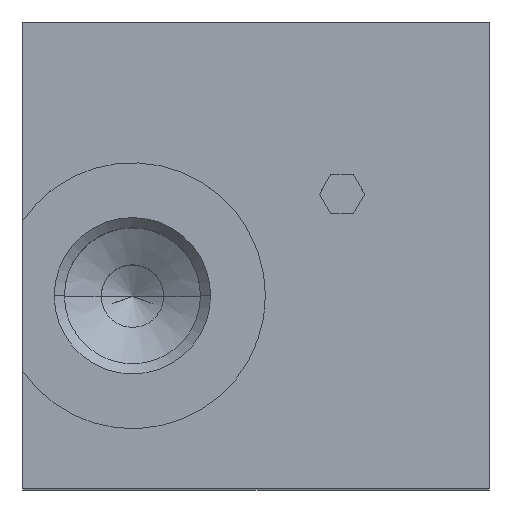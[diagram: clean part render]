
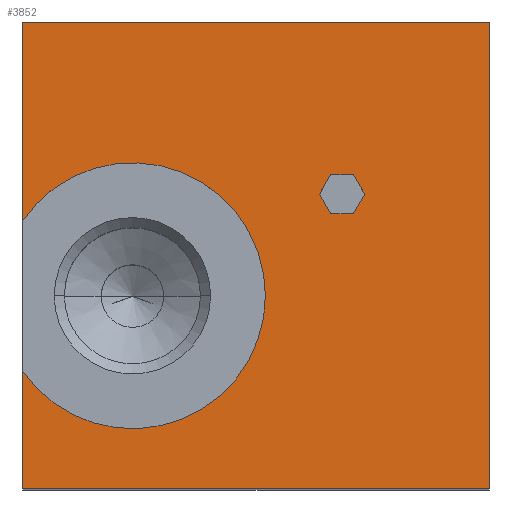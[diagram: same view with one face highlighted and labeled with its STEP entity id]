
A CAD part, top view. The second image highlights one B-rep face of the part: STEP entity #3852.
In plain terms, the highlighted planar face has unit normal (0, 0, 1).
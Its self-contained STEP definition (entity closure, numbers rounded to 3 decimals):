
#14=DIRECTION('',(-1.,0.,0.));
#15=VECTOR('',#14,29.8);
#16=CARTESIAN_POINT('',(14.9,14.9,34.));
#17=LINE('',#16,#15);
#274=DIRECTION('',(0.,-1.,0.));
#275=VECTOR('',#274,7.478);
#276=CARTESIAN_POINT('',(-14.9,-7.422,34.));
#277=LINE('',#276,#275);
#294=DIRECTION('',(0.,-1.,0.));
#295=VECTOR('',#294,12.678);
#296=CARTESIAN_POINT('',(-14.9,14.9,34.));
#297=LINE('',#296,#295);
#529=CARTESIAN_POINT('',(-7.9,-2.6,34.));
#530=DIRECTION('',(0.,0.,-1.));
#531=DIRECTION('',(-0.824,0.567,0.));
#532=AXIS2_PLACEMENT_3D('',#529,#530,#531);
#534=DIRECTION('',(0.,1.,0.));
#535=VECTOR('',#534,14.9);
#536=CARTESIAN_POINT('',(14.9,0.,34.));
#537=LINE('',#536,#535);
#538=DIRECTION('',(0.,1.,0.));
#539=VECTOR('',#538,14.9);
#540=CARTESIAN_POINT('',(14.9,-14.9,34.));
#541=LINE('',#540,#539);
#542=DIRECTION('',(-1.,0.,0.));
#543=VECTOR('',#542,1.443);
#544=CARTESIAN_POINT('',(6.222,5.15,34.));
#545=LINE('',#544,#543);
#546=DIRECTION('',(-0.5,-0.866,0.));
#547=VECTOR('',#546,1.443);
#548=CARTESIAN_POINT('',(4.778,5.15,34.));
#549=LINE('',#548,#547);
#550=DIRECTION('',(0.5,-0.866,0.));
#551=VECTOR('',#550,1.443);
#552=CARTESIAN_POINT('',(4.057,3.9,34.));
#553=LINE('',#552,#551);
#554=DIRECTION('',(1.,0.,0.));
#555=VECTOR('',#554,1.443);
#556=CARTESIAN_POINT('',(4.778,2.65,34.));
#557=LINE('',#556,#555);
#558=DIRECTION('',(0.5,0.866,0.));
#559=VECTOR('',#558,1.443);
#560=CARTESIAN_POINT('',(6.222,2.65,34.));
#561=LINE('',#560,#559);
#562=DIRECTION('',(-0.5,0.866,0.));
#563=VECTOR('',#562,1.443);
#564=CARTESIAN_POINT('',(6.943,3.9,34.));
#565=LINE('',#564,#563);
#574=DIRECTION('',(1.,0.,0.));
#575=VECTOR('',#574,29.8);
#576=CARTESIAN_POINT('',(-14.9,-14.9,34.));
#577=LINE('',#576,#575);
#3120=CARTESIAN_POINT('',(14.9,-14.9,34.));
#3121=CARTESIAN_POINT('',(14.9,0.,34.));
#3122=VERTEX_POINT('',#3120);
#3123=VERTEX_POINT('',#3121);
#3124=CARTESIAN_POINT('',(14.9,14.9,34.));
#3125=VERTEX_POINT('',#3124);
#3127=CARTESIAN_POINT('',(-14.9,14.9,34.));
#3129=VERTEX_POINT('',#3127);
#3131=CARTESIAN_POINT('',(-14.9,-14.9,34.));
#3133=VERTEX_POINT('',#3131);
#3190=CARTESIAN_POINT('',(-14.9,-7.422,34.));
#3191=VERTEX_POINT('',#3190);
#3192=CARTESIAN_POINT('',(-14.9,2.222,34.));
#3193=VERTEX_POINT('',#3192);
#3505=CARTESIAN_POINT('',(6.222,5.15,34.));
#3506=CARTESIAN_POINT('',(4.778,5.15,34.));
#3507=VERTEX_POINT('',#3505);
#3508=VERTEX_POINT('',#3506);
#3509=CARTESIAN_POINT('',(4.057,3.9,34.));
#3510=VERTEX_POINT('',#3509);
#3511=CARTESIAN_POINT('',(4.778,2.65,34.));
#3512=VERTEX_POINT('',#3511);
#3513=CARTESIAN_POINT('',(6.222,2.65,34.));
#3514=VERTEX_POINT('',#3513);
#3515=CARTESIAN_POINT('',(6.943,3.9,34.));
#3516=VERTEX_POINT('',#3515);
#3821=CARTESIAN_POINT('',(0.,0.,34.));
#3822=DIRECTION('',(0.,0.,1.));
#3823=DIRECTION('',(1.,0.,0.));
#3824=AXIS2_PLACEMENT_3D('',#3821,#3822,#3823);
#3825=PLANE('',#3824);
#3826=ORIENTED_EDGE('',*,*,#3815,.F.);
#3827=ORIENTED_EDGE('',*,*,#3718,.F.);
#3828=ORIENTED_EDGE('',*,*,#3564,.F.);
#3830=ORIENTED_EDGE('',*,*,#3829,.F.);
#3832=ORIENTED_EDGE('',*,*,#3831,.F.);
#3834=ORIENTED_EDGE('',*,*,#3833,.F.);
#3835=ORIENTED_EDGE('',*,*,#3707,.F.);
#3836=EDGE_LOOP('',(#3826,#3827,#3828,#3830,#3832,#3834,#3835));
#3837=FACE_OUTER_BOUND('',#3836,.F.);
#3839=ORIENTED_EDGE('',*,*,#3838,.T.);
#3841=ORIENTED_EDGE('',*,*,#3840,.T.);
#3843=ORIENTED_EDGE('',*,*,#3842,.T.);
#3845=ORIENTED_EDGE('',*,*,#3844,.T.);
#3847=ORIENTED_EDGE('',*,*,#3846,.T.);
#3849=ORIENTED_EDGE('',*,*,#3848,.T.);
#3850=EDGE_LOOP('',(#3839,#3841,#3843,#3845,#3847,#3849));
#3851=FACE_BOUND('',#3850,.F.);
#3852=ADVANCED_FACE('',(#3837,#3851),#3825,.T.);
#533=CIRCLE('',#532,8.5);
#3564=EDGE_CURVE('',#3125,#3129,#17,.T.);
#3707=EDGE_CURVE('',#3191,#3133,#277,.T.);
#3718=EDGE_CURVE('',#3129,#3193,#297,.T.);
#3815=EDGE_CURVE('',#3193,#3191,#533,.T.);
#3829=EDGE_CURVE('',#3123,#3125,#537,.T.);
#3831=EDGE_CURVE('',#3122,#3123,#541,.T.);
#3833=EDGE_CURVE('',#3133,#3122,#577,.T.);
#3838=EDGE_CURVE('',#3507,#3508,#545,.T.);
#3840=EDGE_CURVE('',#3508,#3510,#549,.T.);
#3842=EDGE_CURVE('',#3510,#3512,#553,.T.);
#3844=EDGE_CURVE('',#3512,#3514,#557,.T.);
#3846=EDGE_CURVE('',#3514,#3516,#561,.T.);
#3848=EDGE_CURVE('',#3516,#3507,#565,.T.);
